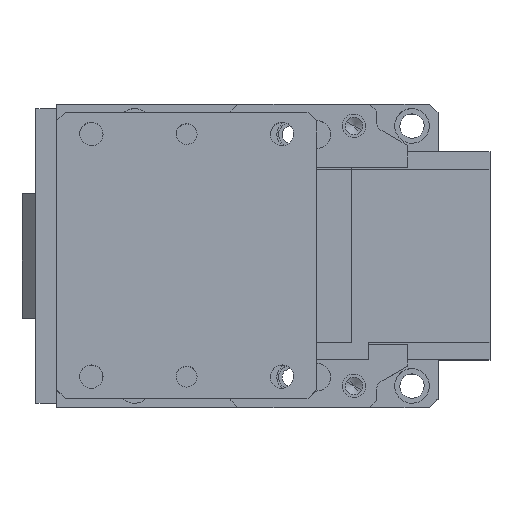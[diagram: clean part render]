
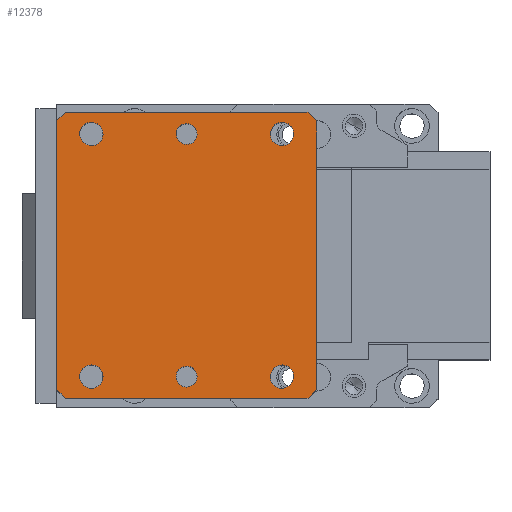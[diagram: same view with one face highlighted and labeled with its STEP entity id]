
A CAD part, top view. The second image highlights one B-rep face of the part: STEP entity #12378.
In plain terms, the highlighted planar face has unit normal (0, 0, 1).
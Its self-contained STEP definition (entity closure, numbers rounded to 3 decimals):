
#11762=CARTESIAN_POINT('Vertex',(5.,82.5,280.)) ;
#11765=CARTESIAN_POINT('Line Origine',(75.,82.5,280.)) ;
#11769=CARTESIAN_POINT('Vertex',(145.,82.5,280.)) ;
#11885=CARTESIAN_POINT('Vertex',(0.,77.5,280.)) ;
#11888=CARTESIAN_POINT('Line Origine',(0.,77.5,280.)) ;
#12028=CARTESIAN_POINT('Vertex',(145.,-82.5,280.)) ;
#12033=CARTESIAN_POINT('Line Origine',(75.,-82.5,280.)) ;
#12037=CARTESIAN_POINT('Vertex',(5.,-82.5,280.)) ;
#12151=CARTESIAN_POINT('Line Origine',(0.,-77.5,280.)) ;
#12155=CARTESIAN_POINT('Vertex',(0.,-77.5,280.)) ;
#12231=CARTESIAN_POINT('Axis2P3D Location',(199.998,0.,280.)) ;
#12236=CARTESIAN_POINT('Line Origine',(147.5,-80.,280.)) ;
#12240=CARTESIAN_POINT('Vertex',(150.,-77.5,280.)) ;
#12243=CARTESIAN_POINT('Line Origine',(150.,0.,280.)) ;
#12247=CARTESIAN_POINT('Vertex',(150.,77.5,280.)) ;
#12250=CARTESIAN_POINT('Line Origine',(147.5,80.,280.)) ;
#12255=CARTESIAN_POINT('Line Origine',(0.,0.,280.)) ;
#12270=CARTESIAN_POINT('Axis2P3D Location',(20.,-70.,280.)) ;
#12274=CARTESIAN_POINT('Vertex',(16.764,-64.076,280.)) ;
#12276=CARTESIAN_POINT('Vertex',(23.236,-75.924,280.)) ;
#12279=CARTESIAN_POINT('Axis2P3D Location',(20.,-70.,280.)) ;
#12288=CARTESIAN_POINT('Axis2P3D Location',(130.,-70.,280.)) ;
#12292=CARTESIAN_POINT('Vertex',(126.764,-64.076,280.)) ;
#12294=CARTESIAN_POINT('Vertex',(133.236,-75.924,280.)) ;
#12297=CARTESIAN_POINT('Axis2P3D Location',(130.,-70.,280.)) ;
#12306=CARTESIAN_POINT('Axis2P3D Location',(130.,70.,280.)) ;
#12310=CARTESIAN_POINT('Vertex',(126.764,75.924,280.)) ;
#12312=CARTESIAN_POINT('Vertex',(133.236,64.076,280.)) ;
#12315=CARTESIAN_POINT('Axis2P3D Location',(130.,70.,280.)) ;
#12324=CARTESIAN_POINT('Axis2P3D Location',(20.,70.,280.)) ;
#12328=CARTESIAN_POINT('Vertex',(16.764,75.924,280.)) ;
#12330=CARTESIAN_POINT('Vertex',(23.236,64.076,280.)) ;
#12333=CARTESIAN_POINT('Axis2P3D Location',(20.,70.,280.)) ;
#12342=CARTESIAN_POINT('Axis2P3D Location',(75.,-70.,280.)) ;
#12346=CARTESIAN_POINT('Vertex',(72.123,-64.735,280.)) ;
#12348=CARTESIAN_POINT('Vertex',(77.877,-75.265,280.)) ;
#12351=CARTESIAN_POINT('Axis2P3D Location',(75.,-70.,280.)) ;
#12360=CARTESIAN_POINT('Axis2P3D Location',(75.,70.,280.)) ;
#12364=CARTESIAN_POINT('Vertex',(72.123,75.265,280.)) ;
#12366=CARTESIAN_POINT('Vertex',(77.877,64.735,280.)) ;
#12369=CARTESIAN_POINT('Axis2P3D Location',(75.,70.,280.)) ;
#11767=VECTOR('Line Direction',#11766,1.) ;
#11890=VECTOR('Line Direction',#11889,1.) ;
#12035=VECTOR('Line Direction',#12034,1.) ;
#12153=VECTOR('Line Direction',#12152,1.) ;
#12238=VECTOR('Line Direction',#12237,1.) ;
#12245=VECTOR('Line Direction',#12244,1.) ;
#12252=VECTOR('Line Direction',#12251,1.) ;
#12257=VECTOR('Line Direction',#12256,1.) ;
#11766=DIRECTION('Vector Direction',(-1.,0.,0.)) ;
#11889=DIRECTION('Vector Direction',(0.707,0.707,0.)) ;
#12034=DIRECTION('Vector Direction',(-1.,0.,0.)) ;
#12152=DIRECTION('Vector Direction',(0.707,-0.707,0.)) ;
#12232=DIRECTION('Axis2P3D Direction',(0.,0.,1.)) ;
#12233=DIRECTION('Axis2P3D XDirection',(-1.,0.,0.)) ;
#12237=DIRECTION('Vector Direction',(-0.707,-0.707,0.)) ;
#12244=DIRECTION('Vector Direction',(0.,1.,0.)) ;
#12251=DIRECTION('Vector Direction',(-0.707,0.707,0.)) ;
#12256=DIRECTION('Vector Direction',(0.,-1.,0.)) ;
#12271=DIRECTION('Axis2P3D Direction',(0.,0.,1.)) ;
#12280=DIRECTION('Axis2P3D Direction',(0.,0.,1.)) ;
#12289=DIRECTION('Axis2P3D Direction',(0.,0.,1.)) ;
#12298=DIRECTION('Axis2P3D Direction',(0.,0.,1.)) ;
#12307=DIRECTION('Axis2P3D Direction',(0.,0.,1.)) ;
#12316=DIRECTION('Axis2P3D Direction',(0.,0.,1.)) ;
#12325=DIRECTION('Axis2P3D Direction',(0.,0.,1.)) ;
#12334=DIRECTION('Axis2P3D Direction',(0.,0.,1.)) ;
#12343=DIRECTION('Axis2P3D Direction',(0.,0.,1.)) ;
#12352=DIRECTION('Axis2P3D Direction',(0.,0.,1.)) ;
#12361=DIRECTION('Axis2P3D Direction',(0.,0.,1.)) ;
#12370=DIRECTION('Axis2P3D Direction',(0.,0.,1.)) ;
#12234=AXIS2_PLACEMENT_3D('Plane Axis2P3D',#12231,#12232,#12233) ;
#12272=AXIS2_PLACEMENT_3D('Circle Axis2P3D',#12270,#12271,$) ;
#12281=AXIS2_PLACEMENT_3D('Circle Axis2P3D',#12279,#12280,$) ;
#12290=AXIS2_PLACEMENT_3D('Circle Axis2P3D',#12288,#12289,$) ;
#12299=AXIS2_PLACEMENT_3D('Circle Axis2P3D',#12297,#12298,$) ;
#12308=AXIS2_PLACEMENT_3D('Circle Axis2P3D',#12306,#12307,$) ;
#12317=AXIS2_PLACEMENT_3D('Circle Axis2P3D',#12315,#12316,$) ;
#12326=AXIS2_PLACEMENT_3D('Circle Axis2P3D',#12324,#12325,$) ;
#12335=AXIS2_PLACEMENT_3D('Circle Axis2P3D',#12333,#12334,$) ;
#12344=AXIS2_PLACEMENT_3D('Circle Axis2P3D',#12342,#12343,$) ;
#12353=AXIS2_PLACEMENT_3D('Circle Axis2P3D',#12351,#12352,$) ;
#12362=AXIS2_PLACEMENT_3D('Circle Axis2P3D',#12360,#12361,$) ;
#12371=AXIS2_PLACEMENT_3D('Circle Axis2P3D',#12369,#12370,$) ;
#11768=LINE('Line',#11765,#11767) ;
#11891=LINE('Line',#11888,#11890) ;
#12036=LINE('Line',#12033,#12035) ;
#12154=LINE('Line',#12151,#12153) ;
#12239=LINE('Line',#12236,#12238) ;
#12246=LINE('Line',#12243,#12245) ;
#12253=LINE('Line',#12250,#12252) ;
#12258=LINE('Line',#12255,#12257) ;
#12273=CIRCLE('generated circle',#12272,6.75) ;
#12282=CIRCLE('generated circle',#12281,6.75) ;
#12291=CIRCLE('generated circle',#12290,6.75) ;
#12300=CIRCLE('generated circle',#12299,6.75) ;
#12309=CIRCLE('generated circle',#12308,6.75) ;
#12318=CIRCLE('generated circle',#12317,6.75) ;
#12327=CIRCLE('generated circle',#12326,6.75) ;
#12336=CIRCLE('generated circle',#12335,6.75) ;
#12345=CIRCLE('generated circle',#12344,6.) ;
#12354=CIRCLE('generated circle',#12353,6.) ;
#12363=CIRCLE('generated circle',#12362,6.) ;
#12372=CIRCLE('generated circle',#12371,6.) ;
#12235=PLANE('',#12234) ;
#12287=FACE_BOUND('',#12284,.T.) ;
#12305=FACE_BOUND('',#12302,.T.) ;
#12323=FACE_BOUND('',#12320,.T.) ;
#12341=FACE_BOUND('',#12338,.T.) ;
#12359=FACE_BOUND('',#12356,.T.) ;
#12377=FACE_BOUND('',#12374,.T.) ;
#11771=EDGE_CURVE('',#11770,#11763,#11768,.T.) ;
#11892=EDGE_CURVE('',#11886,#11763,#11891,.T.) ;
#12039=EDGE_CURVE('',#12029,#12038,#12036,.T.) ;
#12157=EDGE_CURVE('',#12156,#12038,#12154,.T.) ;
#12242=EDGE_CURVE('',#12241,#12029,#12239,.T.) ;
#12249=EDGE_CURVE('',#12248,#12241,#12246,.F.) ;
#12254=EDGE_CURVE('',#12248,#11770,#12253,.T.) ;
#12259=EDGE_CURVE('',#12156,#11886,#12258,.F.) ;
#12278=EDGE_CURVE('',#12275,#12277,#12273,.T.) ;
#12283=EDGE_CURVE('',#12277,#12275,#12282,.T.) ;
#12296=EDGE_CURVE('',#12293,#12295,#12291,.T.) ;
#12301=EDGE_CURVE('',#12295,#12293,#12300,.T.) ;
#12314=EDGE_CURVE('',#12311,#12313,#12309,.T.) ;
#12319=EDGE_CURVE('',#12313,#12311,#12318,.T.) ;
#12332=EDGE_CURVE('',#12329,#12331,#12327,.T.) ;
#12337=EDGE_CURVE('',#12331,#12329,#12336,.T.) ;
#12350=EDGE_CURVE('',#12347,#12349,#12345,.T.) ;
#12355=EDGE_CURVE('',#12349,#12347,#12354,.T.) ;
#12368=EDGE_CURVE('',#12365,#12367,#12363,.T.) ;
#12373=EDGE_CURVE('',#12367,#12365,#12372,.T.) ;
#12260=EDGE_LOOP('',(#12261,#12262,#12263,#12264,#12265,#12266,#12267,#12268)) ;
#12284=EDGE_LOOP('',(#12285,#12286)) ;
#12302=EDGE_LOOP('',(#12303,#12304)) ;
#12320=EDGE_LOOP('',(#12321,#12322)) ;
#12338=EDGE_LOOP('',(#12339,#12340)) ;
#12356=EDGE_LOOP('',(#12357,#12358)) ;
#12374=EDGE_LOOP('',(#12375,#12376)) ;
#12261=ORIENTED_EDGE('',*,*,#12157,.T.) ;
#12262=ORIENTED_EDGE('',*,*,#12039,.F.) ;
#12263=ORIENTED_EDGE('',*,*,#12242,.F.) ;
#12264=ORIENTED_EDGE('',*,*,#12249,.F.) ;
#12265=ORIENTED_EDGE('',*,*,#12254,.T.) ;
#12266=ORIENTED_EDGE('',*,*,#11771,.T.) ;
#12267=ORIENTED_EDGE('',*,*,#11892,.F.) ;
#12268=ORIENTED_EDGE('',*,*,#12259,.F.) ;
#12285=ORIENTED_EDGE('',*,*,#12278,.F.) ;
#12286=ORIENTED_EDGE('',*,*,#12283,.F.) ;
#12303=ORIENTED_EDGE('',*,*,#12296,.F.) ;
#12304=ORIENTED_EDGE('',*,*,#12301,.F.) ;
#12321=ORIENTED_EDGE('',*,*,#12314,.F.) ;
#12322=ORIENTED_EDGE('',*,*,#12319,.F.) ;
#12339=ORIENTED_EDGE('',*,*,#12332,.F.) ;
#12340=ORIENTED_EDGE('',*,*,#12337,.F.) ;
#12357=ORIENTED_EDGE('',*,*,#12350,.F.) ;
#12358=ORIENTED_EDGE('',*,*,#12355,.F.) ;
#12375=ORIENTED_EDGE('',*,*,#12368,.F.) ;
#12376=ORIENTED_EDGE('',*,*,#12373,.F.) ;
#11763=VERTEX_POINT('',#11762) ;
#11770=VERTEX_POINT('',#11769) ;
#11886=VERTEX_POINT('',#11885) ;
#12029=VERTEX_POINT('',#12028) ;
#12038=VERTEX_POINT('',#12037) ;
#12156=VERTEX_POINT('',#12155) ;
#12241=VERTEX_POINT('',#12240) ;
#12248=VERTEX_POINT('',#12247) ;
#12275=VERTEX_POINT('',#12274) ;
#12277=VERTEX_POINT('',#12276) ;
#12293=VERTEX_POINT('',#12292) ;
#12295=VERTEX_POINT('',#12294) ;
#12311=VERTEX_POINT('',#12310) ;
#12313=VERTEX_POINT('',#12312) ;
#12329=VERTEX_POINT('',#12328) ;
#12331=VERTEX_POINT('',#12330) ;
#12347=VERTEX_POINT('',#12346) ;
#12349=VERTEX_POINT('',#12348) ;
#12365=VERTEX_POINT('',#12364) ;
#12367=VERTEX_POINT('',#12366) ;
#12378=ADVANCED_FACE('opened position',(#12269,#12287,#12305,#12323,#12341,#12359,#12377),#12235,.T.) ;
#12269=FACE_OUTER_BOUND('',#12260,.T.) ;
